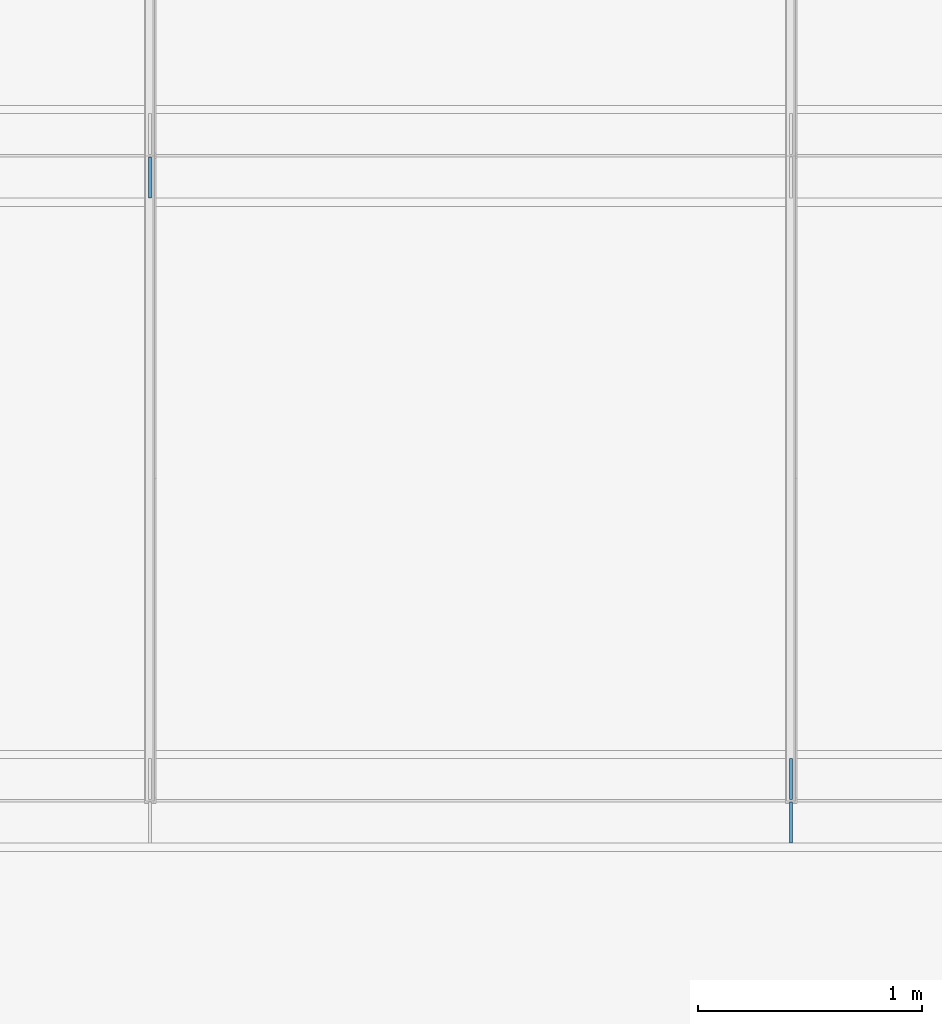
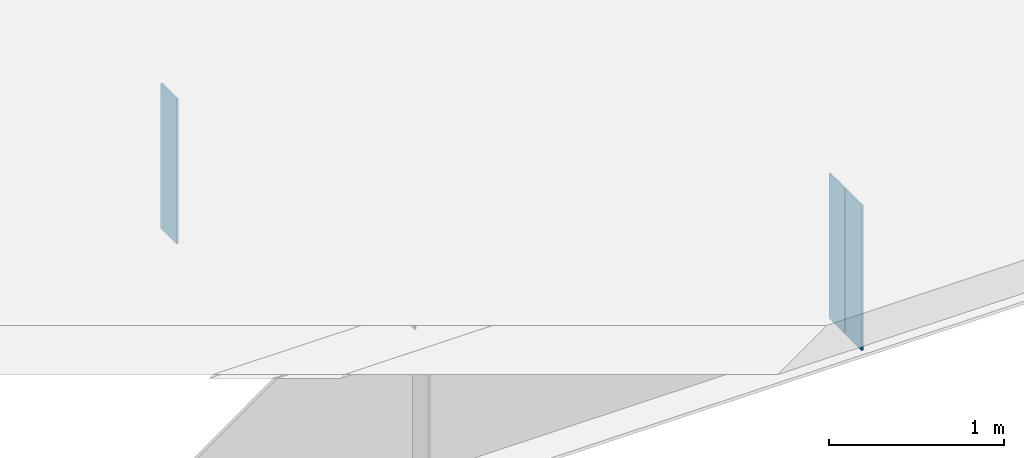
# One storey, part 4 of 8: 3 plates.
"""IFC4 building model written with IfcOpenShell, lengths in metres."""

from ifc_helpers import new_model, si_unit, frame, origin, origin_with_axes, origin_2d_with_axis, place, context, subcontext, project, spatial, rectangle, extrude, element, save


model = new_model("IFC4")

# Units and contexts
model_context = context("Model", 3, precision=1e-05, world=origin())
body_context = subcontext(model_context, "Body", "Model", "MODEL_VIEW")
ifc_project = project(units=[si_unit("LENGTHUNIT", "METRE"), si_unit("AREAUNIT", "SQUARE_METRE"), si_unit("VOLUMEUNIT", "CUBIC_METRE"), si_unit("PLANEANGLEUNIT", "RADIAN")], contexts=[model_context])

# Site, building, storey
site_placement = place(None, origin_with_axes())
site = spatial("IfcSite", under=ifc_project, at=site_placement, Name="Default Site")
building_placement = place(site_placement, origin_with_axes())
building = spatial("IfcBuilding", under=site, at=building_placement, Name="Bridge Structure")
storey_placement = place(building_placement, origin_with_axes())
storey = spatial("IfcBuildingStorey", under=building, at=storey_placement, Name="Superstructure")

# Plates
for number, where, z_axis, x_axis, name in (
    (1, (11.428, -2.77825, -0.505), (0.0, 0.0, 1.0), (1.0, 0.0, 0.0), "Intermediate Stiffener 1"),
    (2, (11.428, -2.97175, -0.505), (0.0, 0.0, 1.0), (1.0, 0.0, 0.0), "Intermediate Stiffener 1"),
    (3, (8.571, -0.09675, -0.505), (0.0, 0.0, 1.0), (1.0, 0.0, 0.0), "Intermediate Stiffener 2"),
):
    element("IfcPlate", number, at=place(storey_placement, frame(where, z_axis=z_axis, x_axis=x_axis)), inside=storey, Name=name, context=body_context, shape_type="SweptSolid", body=[
        extrude(rectangle(XDim=0.012, YDim=0.1815, at=origin_2d_with_axis()), origin_with_axes(), (0.0, 0.0, 1.0), 1.01),
    ])

save(model, "model.ifc")
